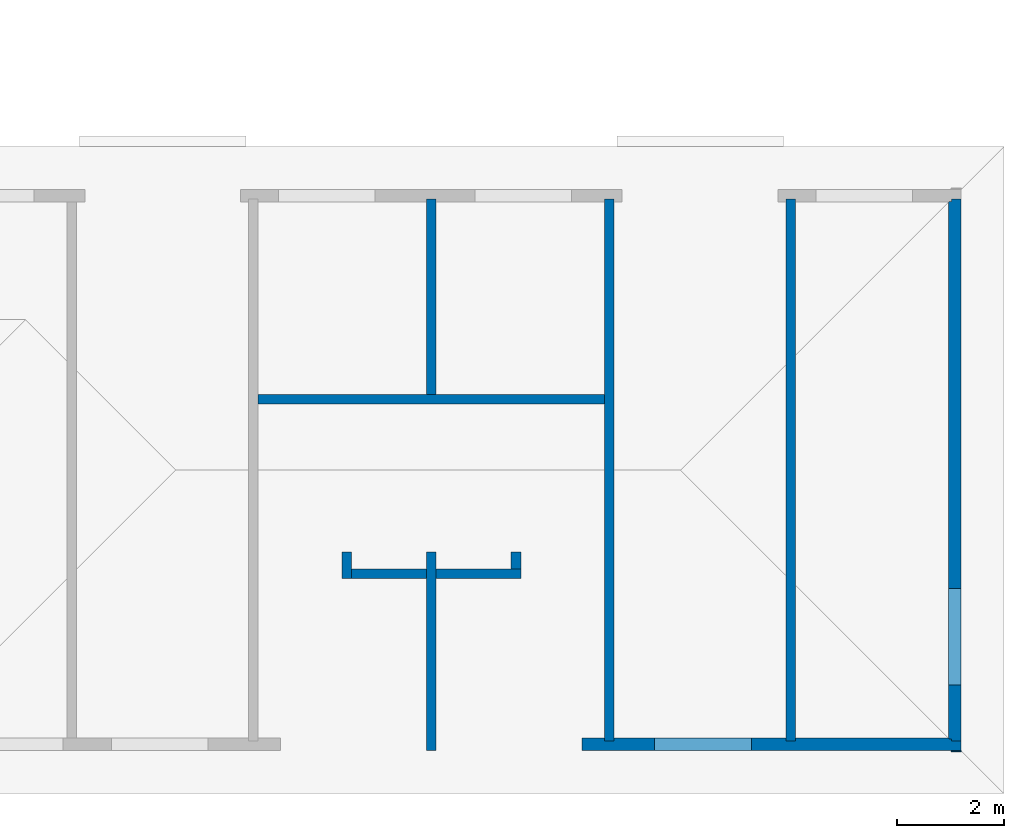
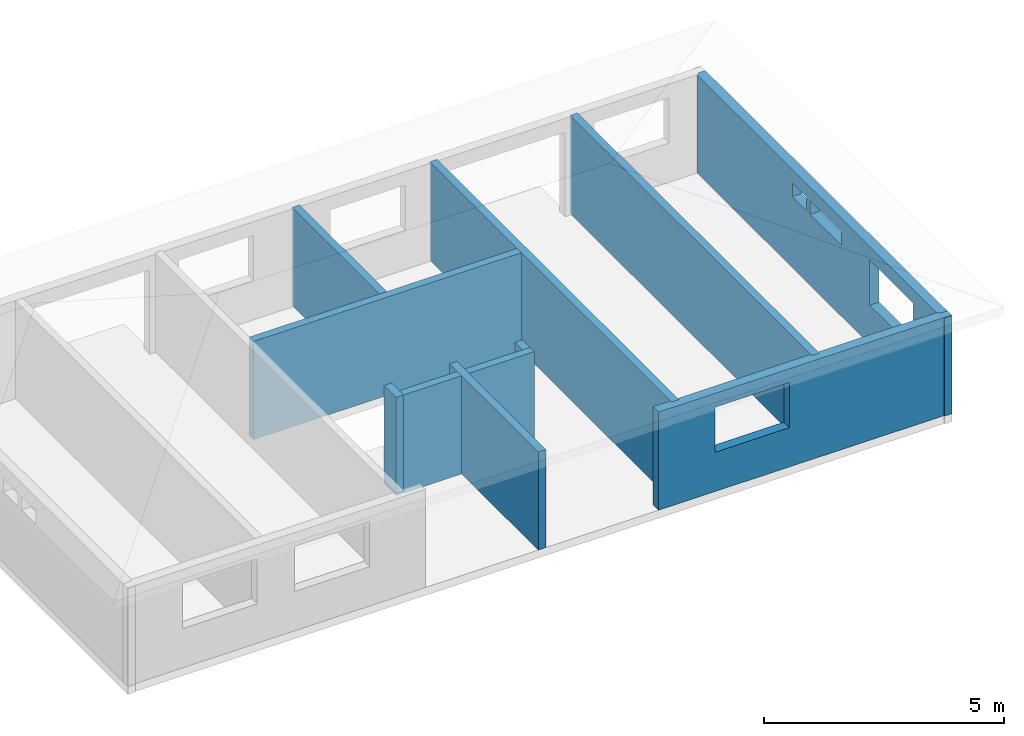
# One storey, part 8 of 9: 12 walls, 4 openings.
"""IFC2X3 building model written with IfcOpenShell, lengths in millimetres."""

import ifcopenshell
import ifcopenshell.guid

model = None  # the IFC model being written
_history = None  # IfcOwnerHistory: only IFC2X3 demands one
_inside = {}  # id of a spatial element -> (the spatial element, [elements in it])
_under = {}  # id of a project, library or spatial element -> (it, [spatial elements below it])
_declared = {}  # id of a project -> (the project, [libraries it declares])
_typed = {}  # id of a type object -> (the type object, [elements of that type])
_made_of = {}  # id of a material, layer set ... -> (it, [elements and type objects made of it])


def new_model(schema):
    """Start an empty IFC model of exactly this schema.

    Asked for "IFC4X3", IfcOpenShell would pick the latest addendum, in which some entities
    have other attributes; the version numbers below select the first issue.
    IFC2X3 requires an IfcOwnerHistory on every rooted entity: one is made here for all.
    """
    global model, _history
    if schema == "IFC4X3":
        model = ifcopenshell.file(schema_version=(4, 3, 0, 0))
    else:
        model = ifcopenshell.file(schema=schema)
    _inside.clear()
    _under.clear()
    _declared.clear()
    _typed.clear()
    _made_of.clear()
    _history = None
    if model.schema == "IFC2X3":
        org = make("IfcOrganization", Name="unknown")
        user = make(
            "IfcPersonAndOrganization",
            ThePerson=make("IfcPerson", FamilyName="unknown"),
            TheOrganization=org,
        )
        app = make(
            "IfcApplication",
            ApplicationDeveloper=org,
            Version="unknown",
            ApplicationFullName="unknown",
            ApplicationIdentifier="unknown",
        )
        _history = make(
            "IfcOwnerHistory",
            OwningUser=user,
            OwningApplication=app,
            ChangeAction="ADDED",
            CreationDate=0,
        )
    return model


def make(cls, **values):
    """One entity of the class cls with the attributes given. An attribute that is None is left unset."""
    return model.create_entity(
        cls, **{name: value for name, value in values.items() if value is not None}
    )


def entity(cls, *values):
    """Any entity or typed value of the class cls, its attributes in the order of the schema. None: left unset."""
    e = model.create_entity(cls)
    for i, value in enumerate(values):
        if value is not None:
            e[i] = value
    return e


def rooted(cls, **values):
    """An entity with a GlobalId (a new one), such as an element, a storey or a relation."""
    return make(cls, GlobalId=ifcopenshell.guid.new(), OwnerHistory=_history, **values)


def si_unit(unit_type, name, prefix=None):
    """IfcSIUnit, for example si_unit("LENGTHUNIT", "METRE", prefix="MILLI")."""
    return make("IfcSIUnit", UnitType=unit_type, Prefix=prefix, Name=name)


def converted_unit(unit_type, name, factor, base, dimensions=None, offset=None):
    """IfcConversionBasedUnit, such as the inch: factor (a typed value) times the base unit."""
    return make(
        "IfcConversionBasedUnit"
        if offset is None
        else "IfcConversionBasedUnitWithOffset",
        ConversionOffset=offset,
        Dimensions=None
        if dimensions is None
        else entity("IfcDimensionalExponents", *dimensions),
        UnitType=unit_type,
        Name=name,
        ConversionFactor=make(
            "IfcMeasureWithUnit", ValueComponent=factor, UnitComponent=base
        ),
    )


def assignment(units):
    """IfcUnitAssignment: the units of a project."""
    return None if units is None else make("IfcUnitAssignment", Units=units)


def point(xyz):
    """IfcCartesianPoint."""
    return None if xyz is None else make("IfcCartesianPoint", Coordinates=xyz)


def direction(xyz):
    """IfcDirection."""
    return None if xyz is None else make("IfcDirection", DirectionRatios=xyz)


def frame(location, z_axis=None, x_axis=None):
    """IfcAxis2Placement3D, a coordinate frame: its origin and axes. An axis left out is left unset."""
    return make(
        "IfcAxis2Placement3D",
        Location=point(location),
        Axis=direction(z_axis),
        RefDirection=direction(x_axis),
    )


def frame_2d(location, x_axis=None):
    """IfcAxis2Placement2D, a coordinate frame in the plane: its origin and x axis."""
    return make(
        "IfcAxis2Placement2D", Location=point(location), RefDirection=direction(x_axis)
    )


def origin():
    """The frame at (0, 0, 0) with its axes left unset."""
    return frame((0.0, 0.0, 0.0))


def origin_with_axes():
    """The frame at (0, 0, 0) with the z axis (0, 0, 1) and the x axis (1, 0, 0) written out."""
    return frame((0.0, 0.0, 0.0), z_axis=(0.0, 0.0, 1.0), x_axis=(1.0, 0.0, 0.0))


def place(relative_to, where):
    """IfcLocalPlacement: puts the frame where relative to a parent placement (None: the world)."""
    return make(
        "IfcLocalPlacement", PlacementRelTo=relative_to, RelativePlacement=where
    )


def context(
    kind, dimensions, precision=None, world=None, true_north=None, identifier=None
):
    """IfcGeometricRepresentationContext, for example the 3D "Model" context."""
    return make(
        "IfcGeometricRepresentationContext",
        ContextIdentifier=identifier,
        ContextType=kind,
        CoordinateSpaceDimension=dimensions,
        Precision=precision,
        WorldCoordinateSystem=world,
        TrueNorth=true_north,
    )


def subcontext(parent, identifier, kind, view, scale=None):
    """IfcGeometricRepresentationSubContext, for example "Body" below "Model"."""
    return make(
        "IfcGeometricRepresentationSubContext",
        ContextIdentifier=identifier,
        ContextType=kind,
        ParentContext=parent,
        TargetScale=scale,
        TargetView=view,
    )


def project(units=None, contexts=None):
    """IfcProject with its units and contexts."""
    return rooted(
        "IfcProject",
        Name="project",
        RepresentationContexts=contexts,
        UnitsInContext=assignment(units),
    )


def spatial(cls, under=None, at=None, **own):
    """A site, building, storey or space (cls), placed at a placement, below another one or the project."""
    s = rooted(cls, ObjectPlacement=at, **own)
    if under is not None:
        _under.setdefault(under.id(), (under, []))[1].append(s)
    return s


def polyline(points):
    """IfcPolyline through the points."""
    return make("IfcPolyline", Points=[point(p) for p in points])


def profile(cls, at=None, kind="AREA", **sizes):
    """A parametric profile (cls). Its sizes go by their IFC names, for example OverallWidth=200.0."""
    return make(cls, ProfileType=kind, Position=at, **sizes)


def rectangle(**sizes):
    """IfcRectangleProfileDef."""
    return profile("IfcRectangleProfileDef", **sizes)


def outline(outer, holes=None, kind="AREA"):
    """IfcArbitraryClosedProfileDef: a profile drawn as a closed curve; with holes, ...WithVoids."""
    if holes is None:
        return make("IfcArbitraryClosedProfileDef", ProfileType=kind, OuterCurve=outer)
    return make(
        "IfcArbitraryProfileDefWithVoids",
        ProfileType=kind,
        OuterCurve=outer,
        InnerCurves=holes,
    )


def extrude(swept, where, along, depth):
    """IfcExtrudedAreaSolid: the profile swept, set in the frame where, extruded along a direction by depth."""
    return make(
        "IfcExtrudedAreaSolid",
        SweptArea=swept,
        Position=where,
        ExtrudedDirection=direction(along),
        Depth=depth,
    )


def shape(context_of_items, identifier, shape_type, items):
    """IfcShapeRepresentation: the items that make up one representation, for example the "Body"."""
    return make(
        "IfcShapeRepresentation",
        ContextOfItems=context_of_items,
        RepresentationIdentifier=identifier,
        RepresentationType=shape_type,
        Items=items,
    )


def material(Name=None, Category=None):
    """IfcMaterial."""
    return make("IfcMaterial", Name=Name, Category=Category)


def layer(
    of_material, thickness, ventilated=None, Name=None, Category=None, Priority=None
):
    """IfcMaterialLayer: one layer of a wall or slab, of a material (None: an air gap)."""
    return make(
        "IfcMaterialLayer",
        Material=of_material,
        LayerThickness=thickness,
        IsVentilated=ventilated,
        Name=Name,
        Category=Category,
        Priority=Priority,
    )


def layer_set(layers, Name=None):
    """IfcMaterialLayerSet."""
    return make("IfcMaterialLayerSet", MaterialLayers=layers, LayerSetName=Name)


def layer_usage(for_layer_set, set_direction, sense, offset, extent=None):
    """IfcMaterialLayerSetUsage: how a layer set lies in its element."""
    return make(
        "IfcMaterialLayerSetUsage",
        ForLayerSet=for_layer_set,
        LayerSetDirection=set_direction,
        DirectionSense=sense,
        OffsetFromReferenceLine=offset,
        ReferenceExtent=extent,
    )


def made_of(thing, what):
    """Note that an element or type object is made of a material, layer set ...; save() writes the relation."""
    if what is not None:
        _made_of.setdefault(what.id(), (what, []))[1].append(thing)
    return thing


def element(
    cls,
    number,
    at=None,
    inside=None,
    cuts=None,
    type_object=None,
    material=None,
    context=None,
    identifier="Body",
    shape_type=None,
    held_by="IfcProductDefinitionShape",
    body=None,
    shapes=None,
    **own,
):
    """One element of the class cls, such as IfcWall. Its Tag is "e" and its number.

    at: its placement. inside: the storey or other place that contains it. cuts: it is an
    opening in that element (IfcRelVoidsElement). A single representation is given by context,
    identifier, shape_type and body (its items); several are given by shapes. held_by: the class
    of the entity that holds the representations. save() writes the other relations.
    """
    e = rooted(cls, Tag="e%d" % number, ObjectPlacement=at, **own)
    if body is not None:
        shapes = [shape(context, identifier, shape_type, body)]
    if shapes is not None:
        e.Representation = make(held_by, Representations=shapes)
    if inside is not None:
        _inside.setdefault(inside.id(), (inside, []))[1].append(e)
    if cuts is not None:
        rooted(
            "IfcRelVoidsElement", RelatingBuildingElement=cuts, RelatedOpeningElement=e
        )
    if type_object is not None:
        _typed.setdefault(type_object.id(), (type_object, []))[1].append(e)
    return made_of(e, material)


def aggregate(whole, parts):
    """IfcRelAggregates: a whole, such as a stair, and the parts it consists of."""
    return rooted("IfcRelAggregates", RelatingObject=whole, RelatedObjects=parts)


def save(model, path):
    """Write the relations noted so far, then the file.

    IfcRelAggregates (storeys below a building ...), IfcRelContainedInSpatialStructure (elements
    in a storey), IfcRelDefinesByType, IfcRelAssociatesMaterial and IfcRelDeclares: one each for
    every whole, place, type object, material and project.
    """
    for whole, parts in _under.values():
        aggregate(whole, parts)
    for where, things in _inside.values():
        rooted(
            "IfcRelContainedInSpatialStructure",
            RelatedElements=things,
            RelatingStructure=where,
        )
    for kind, things in _typed.values():
        rooted("IfcRelDefinesByType", RelatedObjects=things, RelatingType=kind)
    for what, things in _made_of.values():
        rooted("IfcRelAssociatesMaterial", RelatedObjects=things, RelatingMaterial=what)
    for by, libraries in _declared.values():
        rooted("IfcRelDeclares", RelatingContext=by, RelatedDefinitions=libraries)
    model.write(path)


model = new_model("IFC2X3")

# Units and contexts
model_context = context("Model", 3, precision=1e-05, world=origin())
plan_context = context("Plan", 3, precision=1e-05, world=origin())
body_context = subcontext(model_context, "Body", "Model", "MODEL_VIEW")
ifc_project = project(units=[si_unit("LENGTHUNIT", "METRE", prefix="MILLI"), converted_unit("PLANEANGLEUNIT", "DEGREE", entity("IfcPlaneAngleMeasure", 0.0174532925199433), si_unit("PLANEANGLEUNIT", "RADIAN"), dimensions=[0, 0, 0, 0, 0, 0, 0]), si_unit("AREAUNIT", "SQUARE_METRE"), si_unit("VOLUMEUNIT", "CUBIC_METRE")], contexts=[model_context, plan_context])

# Building, storey
building_placement = place(None, origin())
building = spatial("IfcBuilding", under=ifc_project, at=building_placement, Name="Bâtiment", CompositionType="ELEMENT")
storey_placement = place(building_placement, frame((0.0, 0.0, 8100.0), z_axis=(0.0, 0.0, 1.0), x_axis=(1.0, 0.0, 0.0)))
storey = spatial("IfcBuildingStorey", under=building, at=storey_placement, Name="r+3", CompositionType="ELEMENT", Elevation=8100.0)

# Wall, openings
ifc_material_1 = material(Name="moellons")
ifc_layer_1 = layer(ifc_material_1, 180.0)
ifc_material_2 = material(Name="briquettes")
ifc_layer_2 = layer(ifc_material_2, 40.0)
ifc_material_3 = material(Name="enduit platre")
ifc_layer_3 = layer(ifc_material_3, 10.0)
ifc_layer_set_1 = layer_set([ifc_layer_1, ifc_layer_2, ifc_layer_3])
ifc_layer_usage_1 = layer_usage(ifc_layer_set_1, "AXIS2", "POSITIVE", 0.0)
wall_1_placement = place(storey_placement, frame((59549.99999999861, -5399.837206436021, 0.0), z_axis=(0.0, 0.0, 1.0), x_axis=(0.0, 1.0, 0.0)))
wall_1 = element("IfcWallStandardCase", 1, at=wall_1_placement, inside=storey, material=ifc_layer_usage_1, context=body_context, shape_type="SweptSolid", body=[
    extrude(outline(polyline([(0.0, 0.0), (10089.91497192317, 0.0), (10089.91497192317, 180.0), (10049.91497192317, 180.0), (10049.91497192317, 220.0), (10039.91497192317, 220.0), (10039.91497192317, 230.0), (50.0, 230.0), (50.0, 220.0), (40.0, 220.0), (40.0, 180.0), (0.0, 180.0), (0.0, 0.0)])), origin_with_axes(), (0.0, 0.0, 1.0), 2500.0),
])
opening_1_placement = place(wall_1_placement, frame((4019.914971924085, 0.0, 1810.0), z_axis=(0.0, 1.0, 0.0), x_axis=(0.0, 0.0, 1.0)))
element("IfcOpeningElement", 2, at=opening_1_placement, cuts=wall_1, Name="Baie de fenêtre", ObjectType="Opening", context=body_context, shape_type="SweptSolid", body=[
    extrude(rectangle(XDim=340.0, YDim=1300.0, at=frame_2d((170.0, 650.0), x_axis=(1.0, 0.0))), origin_with_axes(), (0.0, 0.0, 1.0), 230.0),
])
opening_2_placement = place(wall_1_placement, frame((5469.914971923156, 0.0, 1810.0), z_axis=(0.0, 1.0, 0.0), x_axis=(0.0, 0.0, 1.0)))
element("IfcOpeningElement", 3, at=opening_2_placement, cuts=wall_1, Name="Baie de fenêtre", ObjectType="Opening", context=body_context, shape_type="SweptSolid", body=[
    extrude(rectangle(XDim=340.0, YDim=600.0, at=frame_2d((170.0, 300.0), x_axis=(1.0, 0.0))), origin_with_axes(), (0.0, 0.0, 1.0), 230.0),
])
opening_3_placement = place(wall_1_placement, frame((1039.837206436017, 0.0, 1000.0), z_axis=(0.0, 1.0, 0.0), x_axis=(0.0, 0.0, 1.0)))
element("IfcOpeningElement", 4, at=opening_3_placement, cuts=wall_1, Name="Baie de fenêtre", ObjectType="Opening", context=body_context, shape_type="SweptSolid", body=[
    extrude(rectangle(XDim=1150.0, YDim=1800.0, at=frame_2d((575.0, 900.0), x_axis=(1.0, 0.0))), origin_with_axes(), (0.0, 0.0, 1.0), 230.0),
])

# Wall, opening
ifc_material_4 = material(Name="moellons")
ifc_layer_4 = layer(ifc_material_4, 180.0)
ifc_material_5 = material(Name="briquettes")
ifc_layer_5 = layer(ifc_material_5, 40.0)
ifc_material_6 = material(Name="enduit platre")
ifc_layer_6 = layer(ifc_material_6, 10.0)
ifc_layer_set_2 = layer_set([ifc_layer_4, ifc_layer_5, ifc_layer_6])
ifc_layer_usage_2 = layer_usage(ifc_layer_set_2, "AXIS2", "POSITIVE", 0.0)
wall_2_placement = place(storey_placement, frame((52494.99999999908, -5579.837206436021, 0.0), z_axis=(0.0, 0.0, 1.0), x_axis=(0.9999999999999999, 0.0, 0.0)))
wall_2 = element("IfcWallStandardCase", 5, at=wall_2_placement, inside=storey, material=ifc_layer_usage_2, context=body_context, shape_type="SweptSolid", body=[
    extrude(outline(polyline([(3975.000000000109, 179.9147573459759), (3795.000000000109, 179.9147573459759), (3795.000000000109, 230.0), (594.9999381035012, 230.0), (594.9999381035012, 179.9147573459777), (414.9999381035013, 179.9147573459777), (414.9999381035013, 230.0), (0.0, 230.0), (0.0, 0.0), (7054.999999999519, 0.0), (7054.999999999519, 180.0), (6874.999999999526, 180.0), (6874.999999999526, 220.0), (6834.999999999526, 220.0), (6834.999999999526, 230.0), (3975.000000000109, 230.0), (3975.000000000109, 179.9147573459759)])), origin_with_axes(), (0.0, 0.0, 1.0), 2500.0),
])
opening_4_placement = place(wall_2_placement, frame((1349.999999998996, 0.0, 1000.0), z_axis=(0.0, 1.0, 0.0), x_axis=(0.0, 0.0, 1.0)))
element("IfcOpeningElement", 6, at=opening_4_placement, cuts=wall_2, Name="Baie de fenêtre", ObjectType="Opening", context=body_context, shape_type="SweptSolid", body=[
    extrude(rectangle(XDim=1150.0, YDim=1800.0, at=frame_2d((575.0, 900.0), x_axis=(1.0, 0.0))), origin_with_axes(), (0.0, 0.0, 1.0), 230.0),
])

# Walls
ifc_material_7 = material(Name="moellons")
ifc_layer_7 = layer(ifc_material_7, 180.0)
ifc_layer_set_3 = layer_set([ifc_layer_7])
ifc_layer_usage_3 = layer_usage(ifc_layer_set_3, "AXIS2", "POSITIVE", 0.0)
wall_3_placement = place(storey_placement, frame((53089.99993810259, -5399.922449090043, 0.0), z_axis=(0.0, 0.0, 1.0), x_axis=(0.0, 1.0, 0.0)))
element("IfcWallStandardCase", 7, at=wall_3_placement, inside=storey, material=ifc_layer_usage_3, context=body_context, shape_type="SweptSolid", body=[
    extrude(rectangle(XDim=10090.00021457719, YDim=180.0, at=frame_2d((5045.000107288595, 90.0), x_axis=(1.0, 0.0))), origin_with_axes(), (0.0, 0.0, 1.0), 2500.0),
])
ifc_material_8 = material(Name="moellons")
ifc_layer_8 = layer(ifc_material_8, 180.0)
ifc_layer_set_4 = layer_set([ifc_layer_8])
ifc_layer_usage_4 = layer_usage(ifc_layer_set_4, "AXIS2", "POSITIVE", 0.0)
wall_4_placement = place(storey_placement, frame((56469.99999999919, -5399.922449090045, 0.0), z_axis=(0.0, 0.0, 1.0), x_axis=(0.0, 1.0, 0.0)))
element("IfcWallStandardCase", 8, at=wall_4_placement, inside=storey, material=ifc_layer_usage_4, context=body_context, shape_type="SweptSolid", body=[
    extrude(rectangle(XDim=10090.00021457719, YDim=180.0, at=frame_2d((5045.000107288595, 90.0), x_axis=(1.0, 0.0))), origin_with_axes(), (0.0, 0.0, 1.0), 2500.0),
])
ifc_material_9 = material(Name="moellons")
ifc_layer_9 = layer(ifc_material_9, 180.0)
ifc_layer_set_5 = layer_set([ifc_layer_9])
ifc_layer_usage_5 = layer_usage(ifc_layer_set_5, "AXIS2", "POSITIVE", 0.0)
wall_5_placement = place(storey_placement, frame((49774.99999999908, 1050.077765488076, 0.0), z_axis=(0.0, 0.0, 1.0), x_axis=(0.0, 1.0, 0.0)))
element("IfcWallStandardCase", 9, at=wall_5_placement, inside=storey, material=ifc_layer_usage_5, context=body_context, shape_type="SweptSolid", body=[
    extrude(rectangle(XDim=3639.999999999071, YDim=180.0, at=frame_2d((1819.999999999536, 90.0), x_axis=(1.0, 0.0))), origin_with_axes(), (0.0, 0.0, 1.0), 2500.0),
])
ifc_material_10 = material(Name="moellons")
ifc_layer_10 = layer(ifc_material_10, 180.0)
ifc_layer_set_6 = layer_set([ifc_layer_10])
ifc_layer_usage_6 = layer_usage(ifc_layer_set_6, "AXIS2", "POSITIVE", 0.0)
wall_6_placement = place(storey_placement, frame((52909.99947974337, 1050.077765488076, 0.0), z_axis=(0.0, 0.0, 1.0), x_axis=(-1.0, 0.0, 0.0)))
element("IfcWallStandardCase", 10, at=wall_6_placement, inside=storey, material=ifc_layer_usage_6, context=body_context, shape_type="SweptSolid", body=[
    extrude(rectangle(XDim=6449.999479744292, YDim=180.0, at=frame_2d((3224.999739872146, 90.0), x_axis=(1.0, 0.0))), origin_with_axes(), (0.0, 0.0, 1.0), 2500.0),
])
ifc_material_11 = material(Name="moellons")
ifc_layer_11 = layer(ifc_material_11, 180.0)
ifc_layer_set_7 = layer_set([ifc_layer_11])
ifc_layer_usage_7 = layer_usage(ifc_layer_set_7, "AXIS2", "POSITIVE", 0.0)
wall_7_placement = place(storey_placement, frame((48199.99945313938, -2379.922234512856, 0.0), z_axis=(0.0, 0.0, 1.0), x_axis=(0.0, 1.0, 0.0)))
element("IfcWallStandardCase", 11, at=wall_7_placement, inside=storey, material=ifc_layer_usage_7, context=body_context, shape_type="SweptSolid", body=[
    extrude(rectangle(XDim=500.0, YDim=180.0, at=frame_2d((250.0, 90.0), x_axis=(1.0, 0.0))), origin_with_axes(), (0.0, 0.0, 1.0), 2500.0),
])
ifc_material_12 = material(Name="moellons")
ifc_layer_12 = layer(ifc_material_12, 180.0)
ifc_layer_set_8 = layer_set([ifc_layer_12])
ifc_layer_usage_8 = layer_usage(ifc_layer_set_8, "AXIS2", "POSITIVE", 0.0)
wall_8_placement = place(storey_placement, frame((51349.9994531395, -2199.922234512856, 0.0), z_axis=(0.0, 0.0, 1.0), x_axis=(-1.0, 0.0, 0.0)))
element("IfcWallStandardCase", 12, at=wall_8_placement, inside=storey, material=ifc_layer_usage_8, context=body_context, shape_type="SweptSolid", body=[
    extrude(outline(polyline([(0.0, 0.0), (1574.999453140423, 0.0), (1574.999453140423, 180.0), (0.0, 180.0), (0.0, 0.0)])), origin_with_axes(), (0.0, 0.0, 1.0), 2500.0),
])
ifc_material_13 = material(Name="moellons")
ifc_layer_13 = layer(ifc_material_13, 180.0)
ifc_layer_set_9 = layer_set([ifc_layer_13])
ifc_layer_usage_9 = layer_usage(ifc_layer_set_9, "AXIS2", "POSITIVE", 0.0)
wall_9_placement = place(storey_placement, frame((51349.9994531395, -2199.922234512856, 0.0), z_axis=(0.0, 0.0, 1.0), x_axis=(-1.0, 0.0, 0.0)))
element("IfcWallStandardCase", 13, at=wall_9_placement, inside=storey, material=ifc_layer_usage_9, context=body_context, shape_type="SweptSolid", body=[
    extrude(outline(polyline([(1754.999453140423, 0.0), (3150.000000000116, 0.0), (3150.000000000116, 180.0), (1754.999453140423, 180.0), (1754.999453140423, 0.0)])), origin_with_axes(), (0.0, 0.0, 1.0), 2500.0),
])
ifc_material_14 = material(Name="moellons")
ifc_layer_14 = layer(ifc_material_14, 180.0)
ifc_layer_set_10 = layer_set([ifc_layer_14])
ifc_layer_usage_10 = layer_usage(ifc_layer_set_10, "AXIS2", "POSITIVE", 0.0)
wall_10_placement = place(storey_placement, frame((51169.9994531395, -1879.922234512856, 0.0), z_axis=(0.0, 0.0, 1.0), x_axis=(0.0, -1.0, 0.0)))
element("IfcWallStandardCase", 14, at=wall_10_placement, inside=storey, material=ifc_layer_usage_10, context=body_context, shape_type="SweptSolid", body=[
    extrude(rectangle(XDim=320.0, YDim=180.0, at=frame_2d((160.0, 90.0), x_axis=(1.0, 0.0))), origin_with_axes(), (0.0, 0.0, 1.0), 2500.0),
])
ifc_material_15 = material(Name="moellons")
ifc_layer_15 = layer(ifc_material_15, 180.0)
ifc_layer_set_11 = layer_set([ifc_layer_15])
ifc_layer_usage_11 = layer_usage(ifc_layer_set_11, "AXIS2", "POSITIVE", 0.0)
wall_11_placement = place(storey_placement, frame((49774.99999999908, -5579.961782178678, 0.0), z_axis=(0.0, 0.0, 1.0), x_axis=(0.0, 1.0, 0.0)))
element("IfcWallStandardCase", 15, at=wall_11_placement, inside=storey, material=ifc_layer_usage_11, context=body_context, shape_type="SweptSolid", body=[
    extrude(rectangle(XDim=3700.039547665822, YDim=180.0, at=frame_2d((1850.019773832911, 90.0), x_axis=(1.0, 0.0))), origin_with_axes(), (0.0, 0.0, 1.0), 2500.0),
])
ifc_material_16 = material(Name="moellons")
ifc_layer_16 = layer(ifc_material_16, 20.16279356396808)
ifc_layer_set_12 = layer_set([ifc_layer_16])
ifc_layer_usage_12 = layer_usage(ifc_layer_set_12, "AXIS2", "POSITIVE", 0.0)
wall_12_placement = place(storey_placement, frame((59549.9999999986, -5599.999999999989, 0.0), z_axis=(0.0, 0.0, 1.0), x_axis=(-1.0, 0.0, 0.0)))
element("IfcWallStandardCase", 16, at=wall_12_placement, inside=storey, material=ifc_layer_usage_12, context=body_context, shape_type="SweptSolid", body=[
    extrude(rectangle(XDim=180.0, YDim=20.16279356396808, at=frame_2d((90.0, 10.08139678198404), x_axis=(1.0, 0.0))), frame((0.0, -20.16279356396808, 0.0), z_axis=(0.0, 0.0, 1.0), x_axis=(1.0, 0.0, 0.0)), (0.0, 0.0, 1.0), 2500.0),
])

save(model, "model.ifc")
